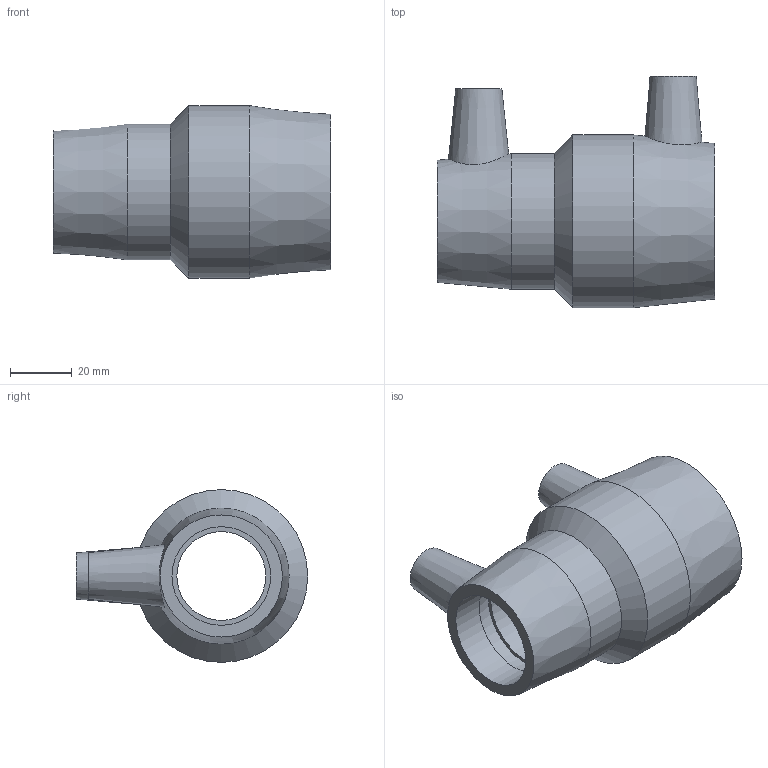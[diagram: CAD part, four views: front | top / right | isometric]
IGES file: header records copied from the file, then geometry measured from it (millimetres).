
Global section: file name: 491104040032.ipt; native system: Autodesk Inventor 2015; preprocessor: unknown; author: KIM; date: 20171106.093718; units: millimetre
Bounding box: 90 x 75 x 56 mm (x, y, z)
Volume: 87571.8 mm3; surface area: 29826.7 mm2
Topology: 1 solids, 1 shells, 31 faces, 72 edges, 51 vertices
Faces by surface type: plane 12, revolution 10, cone 5, cylinder 4
Full cylindrical faces by diameter (mm): 4 x2, 44 x1, 56 x1
